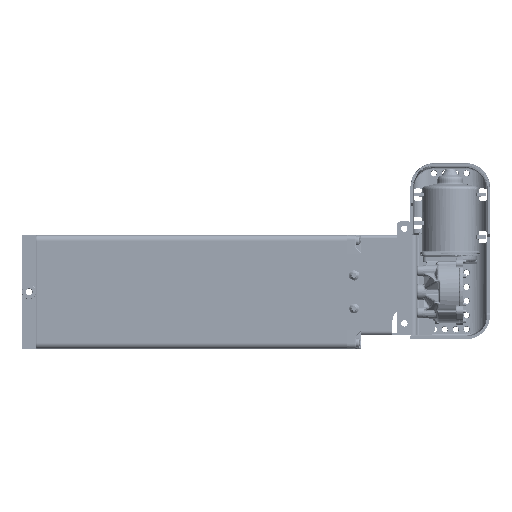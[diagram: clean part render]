
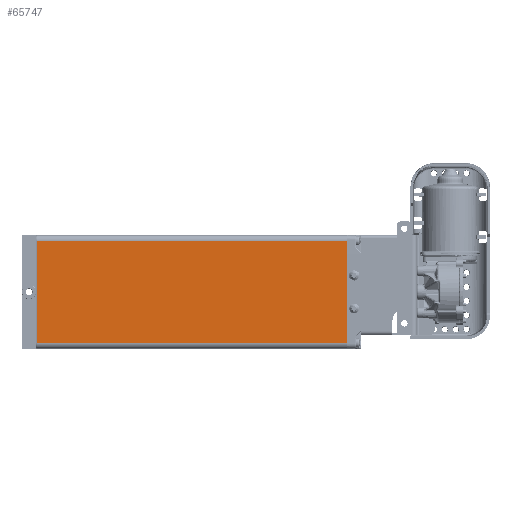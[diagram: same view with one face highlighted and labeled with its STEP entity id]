
A CAD part, top view. The second image highlights one B-rep face of the part: STEP entity #65747.
In plain terms, the highlighted planar face has unit normal (0, 0, 1).
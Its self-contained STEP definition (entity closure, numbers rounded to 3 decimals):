
#5903=LINE('',#113302,#8634);
#5904=LINE('',#113305,#8635);
#5905=LINE('',#113307,#8636);
#5906=LINE('',#113309,#8637);
#8634=VECTOR('',#76628,1000.);
#8635=VECTOR('',#76629,1000.);
#8636=VECTOR('',#76630,1000.);
#8637=VECTOR('',#76631,1000.);
#10754=PLANE('',#69620);
#15907=ORIENTED_EDGE('',*,*,#29793,.T.);
#15908=ORIENTED_EDGE('',*,*,#29794,.T.);
#15909=ORIENTED_EDGE('',*,*,#29795,.T.);
#15910=ORIENTED_EDGE('',*,*,#29796,.T.);
#29793=EDGE_CURVE('',#36963,#36964,#5903,.F.);
#29794=EDGE_CURVE('',#36964,#36965,#5904,.T.);
#29795=EDGE_CURVE('',#36965,#36966,#5905,.T.);
#29796=EDGE_CURVE('',#36966,#36963,#5906,.F.);
#36963=VERTEX_POINT('',#113303);
#36964=VERTEX_POINT('',#113304);
#36965=VERTEX_POINT('',#113306);
#36966=VERTEX_POINT('',#113308);
#43916=EDGE_LOOP('',(#15907,#15908,#15909,#15910));
#47934=FACE_BOUND('',#43916,.T.);
#65747=ADVANCED_FACE('',(#47934),#10754,.T.);
#69620=AXIS2_PLACEMENT_3D('',#113301,#76626,#76627);
#76626=DIRECTION('',(0.,0.,1.));
#76627=DIRECTION('',(1.,0.,0.));
#76628=DIRECTION('',(0.,-1.,0.));
#76629=DIRECTION('',(-1.,0.,0.));
#76630=DIRECTION('',(0.,-1.,0.));
#76631=DIRECTION('',(-1.,0.,0.));
#113301=CARTESIAN_POINT('',(60.,328.5,30.));
#113302=CARTESIAN_POINT('',(54.,328.5,30.));
#113303=CARTESIAN_POINT('',(54.,0.5,30.));
#113304=CARTESIAN_POINT('',(54.,328.,30.));
#113305=CARTESIAN_POINT('',(60.,328.,30.));
#113306=CARTESIAN_POINT('',(-54.,328.,30.));
#113307=CARTESIAN_POINT('',(-54.,328.5,30.));
#113308=CARTESIAN_POINT('',(-54.,0.5,30.));
#113309=CARTESIAN_POINT('',(54.,0.5,30.));
